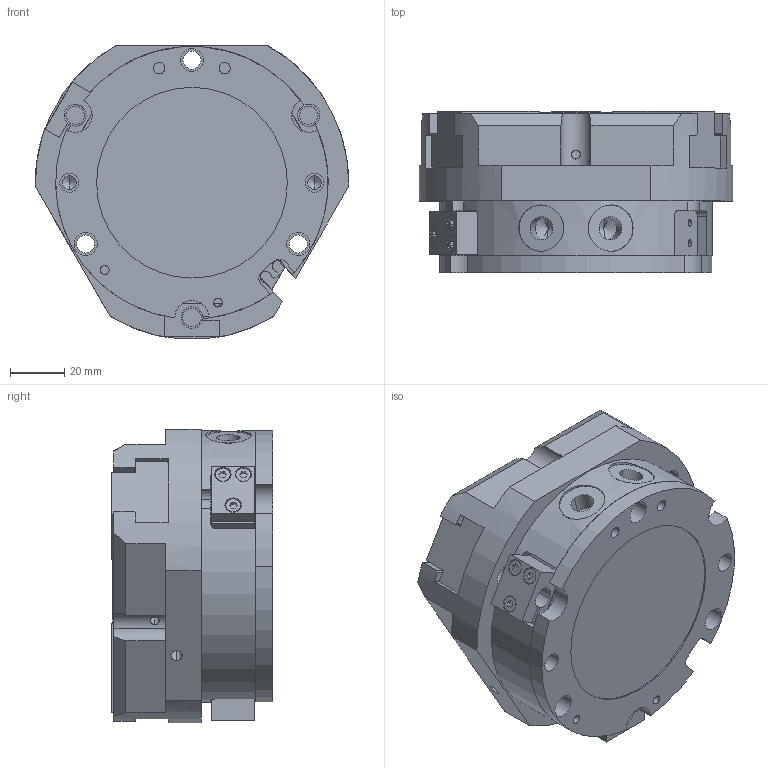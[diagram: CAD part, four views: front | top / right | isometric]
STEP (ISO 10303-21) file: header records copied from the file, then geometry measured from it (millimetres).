
FILE_DESCRIPTION (( 'STEP AP214' ), '1' );
FILE_NAME ('FCT-100A-1.STEP', '2020-07-07T10:53:19', ( '' ), ( '' ), 'SwSTEP 2.0', 'SolidWorks 2016', '' );
FILE_SCHEMA (( 'AUTOMOTIVE_DESIGN' ));
Length unit declared in the file: millimetre
Products named in the file (6): FCT-100A-1; NAUO6; NAUO2; NAUO7; NAUO1; NAUO4
Assembly tree (8 placements, depth 2):
  FCT-100A-1
    NAUO1
    NAUO2  x2
    NAUO4
    NAUO6
    NAUO7  x3
Bounding box: 114.98 x 59.3 x 107.82 mm (x, y, z)
Volume: 455748.6 mm3; surface area: 95179.4 mm2
Topology: 8 solids, 8 shells, 496 faces, 1287 edges, 821 vertices
Faces by surface type: plane 235, cylinder 197, cone 64
Entity records: 12384 total; most frequent: CARTESIAN_POINT 2709, DIRECTION 2045, ORIENTED_EDGE 1918, EDGE_CURVE 959, AXIS2_PLACEMENT_3D 758, VERTEX_POINT 633, LINE 529, VECTOR 529
